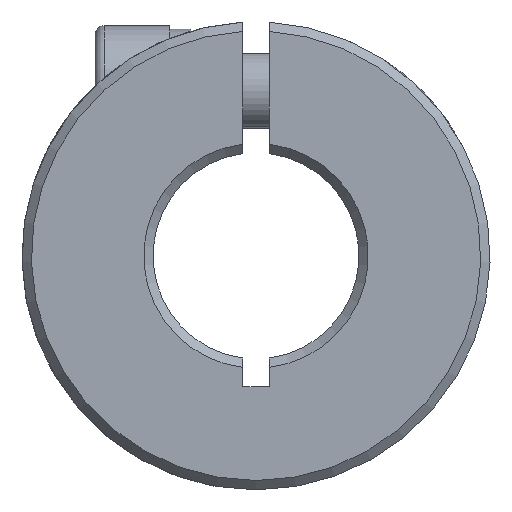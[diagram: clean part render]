
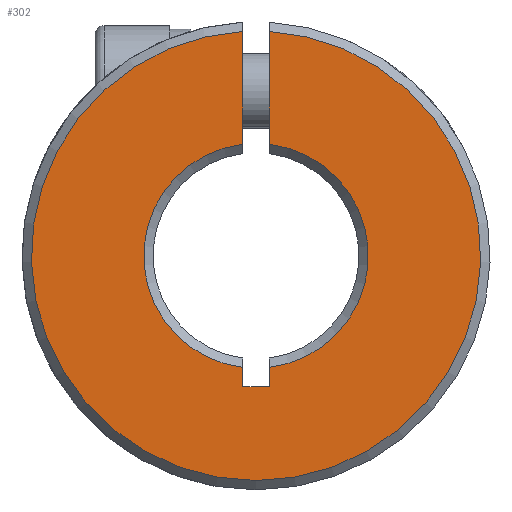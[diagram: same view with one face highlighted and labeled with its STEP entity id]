
A CAD part, front view. The second image highlights one B-rep face of the part: STEP entity #302.
In plain terms, the highlighted planar face has unit normal (0, -1, 0).
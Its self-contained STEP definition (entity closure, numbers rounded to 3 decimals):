
#2 = DIRECTION ( 'NONE',  ( 0., 0., 1. ) ) ;
#8 = LINE ( 'NONE', #425, #1666 ) ;
#229 = PLANE ( 'NONE',  #2465 ) ;
#232 = LINE ( 'NONE', #2101, #1332 ) ;
#233 = EDGE_CURVE ( 'NONE', #1405, #2624, #940, .T. ) ;
#302 = ADVANCED_FACE ( 'NONE', ( #1866 ), #229, .F. ) ;
#306 = CARTESIAN_POINT ( 'NONE',  ( 0., 0.25, 0. ) ) ;
#326 = ORIENTED_EDGE ( 'NONE', *, *, #1698, .F. ) ;
#341 = DIRECTION ( 'NONE',  ( 1., 0., 0. ) ) ;
#355 = CARTESIAN_POINT ( 'NONE',  ( 0.7, 0.25, -5.959 ) ) ;
#378 = VECTOR ( 'NONE', #3237, 1000. ) ;
#394 = ORIENTED_EDGE ( 'NONE', *, *, #233, .F. ) ;
#425 = CARTESIAN_POINT ( 'NONE',  ( 0.7, 0.25, -7. ) ) ;
#614 = ORIENTED_EDGE ( 'NONE', *, *, #2277, .F. ) ;
#632 = EDGE_CURVE ( 'NONE', #934, #2045, #2370, .T. ) ;
#635 = CARTESIAN_POINT ( 'NONE',  ( 0., 0.25, 0. ) ) ;
#666 = VECTOR ( 'NONE', #341, 1000. ) ;
#740 = VECTOR ( 'NONE', #3282, 1000. ) ;
#830 = DIRECTION ( 'NONE',  ( 0., 0., 1. ) ) ;
#853 = EDGE_CURVE ( 'NONE', #3291, #1203, #1825, .T. ) ;
#924 = DIRECTION ( 'NONE',  ( 0., 1., 0. ) ) ;
#934 = VERTEX_POINT ( 'NONE', #1267 ) ;
#937 = DIRECTION ( 'NONE',  ( 0., 0., 1. ) ) ;
#940 = LINE ( 'NONE', #1441, #740 ) ;
#1006 = ORIENTED_EDGE ( 'NONE', *, *, #1838, .F. ) ;
#1105 = CARTESIAN_POINT ( 'NONE',  ( 0.7, 0.25, -7. ) ) ;
#1164 = ORIENTED_EDGE ( 'NONE', *, *, #2776, .T. ) ;
#1203 = VERTEX_POINT ( 'NONE', #355 ) ;
#1229 = CARTESIAN_POINT ( 'NONE',  ( 12.5, 0.25, -50. ) ) ;
#1267 = CARTESIAN_POINT ( 'NONE',  ( -0.7, 0.25, 11.98 ) ) ;
#1273 = AXIS2_PLACEMENT_3D ( 'NONE', #1498, #2268, #3064 ) ;
#1332 = VECTOR ( 'NONE', #2898, 1000. ) ;
#1405 = VERTEX_POINT ( 'NONE', #1767 ) ;
#1441 = CARTESIAN_POINT ( 'NONE',  ( -0.7, 0.25, -7. ) ) ;
#1468 = ORIENTED_EDGE ( 'NONE', *, *, #1588, .F. ) ;
#1498 = CARTESIAN_POINT ( 'NONE',  ( 0., 0.25, 0. ) ) ;
#1588 = EDGE_CURVE ( 'NONE', #2624, #2936, #2107, .T. ) ;
#1599 = EDGE_LOOP ( 'NONE', ( #1006, #3208, #614, #1468, #394, #1164, #326, #2241 ) ) ;
#1666 = VECTOR ( 'NONE', #2197, 1000. ) ;
#1698 = EDGE_CURVE ( 'NONE', #934, #1726, #232, .T. ) ;
#1709 = CARTESIAN_POINT ( 'NONE',  ( 0.7, 0.25, -7. ) ) ;
#1726 = VERTEX_POINT ( 'NONE', #2414 ) ;
#1751 = DIRECTION ( 'NONE',  ( 0., 1., 0. ) ) ;
#1767 = CARTESIAN_POINT ( 'NONE',  ( -0.7, 0.25, -5.959 ) ) ;
#1825 = CIRCLE ( 'NONE', #1273, 6. ) ;
#1838 = EDGE_CURVE ( 'NONE', #3291, #2045, #8, .T. ) ;
#1866 = FACE_OUTER_BOUND ( 'NONE', #1599, .T. ) ;
#1867 = DIRECTION ( 'NONE',  ( 0., -1., 0. ) ) ;
#1906 = CIRCLE ( 'NONE', #3173, 6. ) ;
#1913 = CARTESIAN_POINT ( 'NONE',  ( 0.7, 0.25, 5.959 ) ) ;
#2045 = VERTEX_POINT ( 'NONE', #2596 ) ;
#2055 = AXIS2_PLACEMENT_3D ( 'NONE', #306, #1867, #830 ) ;
#2101 = CARTESIAN_POINT ( 'NONE',  ( -0.7, 0.25, -7. ) ) ;
#2107 = LINE ( 'NONE', #1105, #666 ) ;
#2197 = DIRECTION ( 'NONE',  ( 0., 0., 1. ) ) ;
#2241 = ORIENTED_EDGE ( 'NONE', *, *, #632, .T. ) ;
#2268 = DIRECTION ( 'NONE',  ( 0., 1., 0. ) ) ;
#2277 = EDGE_CURVE ( 'NONE', #2936, #1203, #2680, .T. ) ;
#2370 = CIRCLE ( 'NONE', #2055, 12. ) ;
#2414 = CARTESIAN_POINT ( 'NONE',  ( -0.7, 0.25, 5.959 ) ) ;
#2447 = CARTESIAN_POINT ( 'NONE',  ( 0.7, 0.25, -7. ) ) ;
#2465 = AXIS2_PLACEMENT_3D ( 'NONE', #1229, #1751, #2 ) ;
#2596 = CARTESIAN_POINT ( 'NONE',  ( 0.7, 0.25, 11.98 ) ) ;
#2624 = VERTEX_POINT ( 'NONE', #2897 ) ;
#2680 = LINE ( 'NONE', #2447, #378 ) ;
#2776 = EDGE_CURVE ( 'NONE', #1405, #1726, #1906, .T. ) ;
#2897 = CARTESIAN_POINT ( 'NONE',  ( -0.7, 0.25, -7. ) ) ;
#2898 = DIRECTION ( 'NONE',  ( 0., 0., -1. ) ) ;
#2936 = VERTEX_POINT ( 'NONE', #1709 ) ;
#3064 = DIRECTION ( 'NONE',  ( 0., 0., 1. ) ) ;
#3173 = AXIS2_PLACEMENT_3D ( 'NONE', #635, #924, #937 ) ;
#3208 = ORIENTED_EDGE ( 'NONE', *, *, #853, .T. ) ;
#3237 = DIRECTION ( 'NONE',  ( 0., 0., 1. ) ) ;
#3282 = DIRECTION ( 'NONE',  ( 0., 0., -1. ) ) ;
#3291 = VERTEX_POINT ( 'NONE', #1913 ) ;
